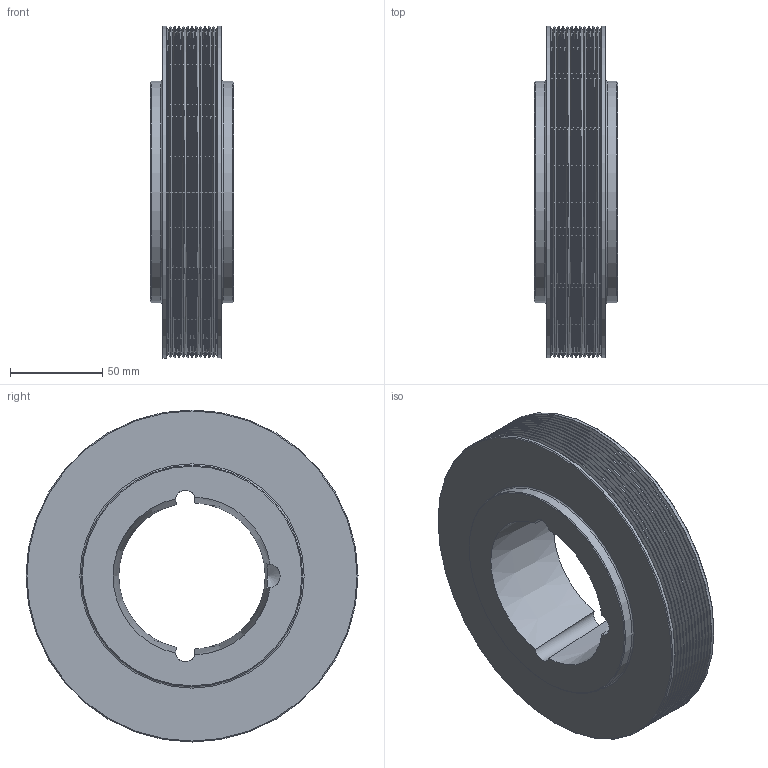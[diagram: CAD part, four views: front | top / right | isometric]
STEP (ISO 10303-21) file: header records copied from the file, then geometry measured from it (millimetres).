
FILE_DESCRIPTION(/* description */ (''),/* implementation_level */ '2;1');
FILE_NAME(/* name */ 'C:\Users\stagistaCAD\Desktop\48112224.stp',/* time_stamp */ '2018-06-14T09:06:33+02:00',/* author */ ('stagistacad'),/* organization */ (''),/* preprocessor_version */ 'ST-DEVELOPER v15.6',/* originating_system */ 'Autodesk Inventor 2015',/* authorisation */ '');
FILE_SCHEMA (('AUTOMOTIVE_DESIGN { 1 0 10303 214 3 1 1 }'));
Length unit declared in the file: millimetre
Products named in the file (1): 48112224
Bounding box: 45 x 180 x 180 mm (x, y, z)
Volume: 703272.7 mm3; surface area: 94108.4 mm2
Topology: 1 solids, 1 shells, 69 faces, 142 edges, 76 vertices
Faces by surface type: cone 31, torus 27, cylinder 7, plane 4
Full cylindrical faces by diameter (mm): 120 x2, 180 x2
Entity records: 1548 total; most frequent: CARTESIAN_POINT 295, DIRECTION 286, ORIENTED_EDGE 160, AXIS2_PLACEMENT_3D 143, EDGE_LOOP 132, EDGE_CURVE 80, VERTEX_POINT 74, CIRCLE 73
